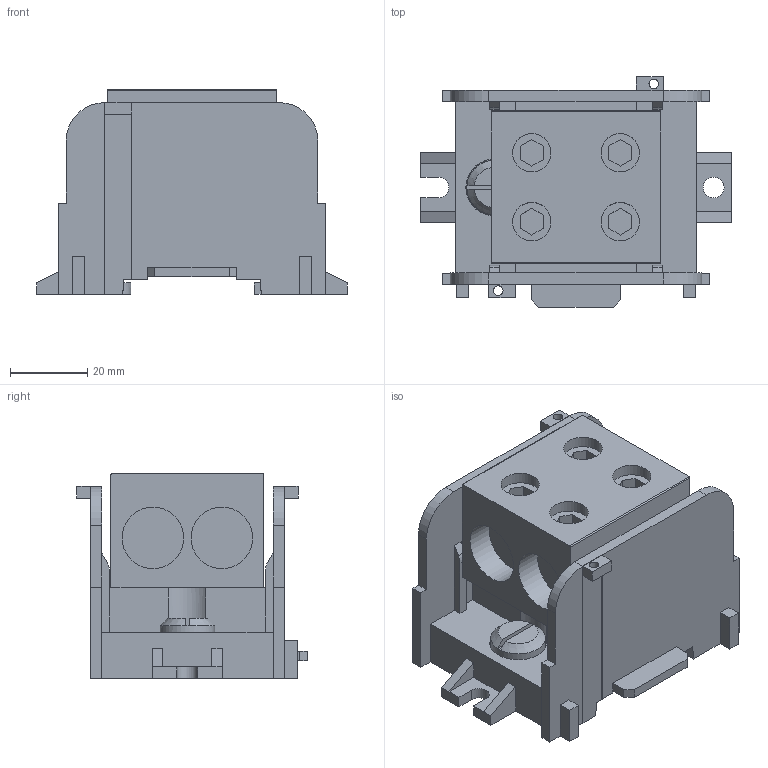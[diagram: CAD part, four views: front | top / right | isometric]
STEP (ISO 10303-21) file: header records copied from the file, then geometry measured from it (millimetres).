
FILE_DESCRIPTION(/* description */ ('Unknown'),/* implementation_level */ '2;1');
FILE_NAME(/* name */ 'UTB-S 2x95',/* time_stamp */ '2021-04-01T13:21:20+02:00',/* author */ ('Unknown'),/* organization */ ('Unknown'),/* preprocessor_version */ 'ST-DEVELOPER v16.7',/* originating_system */ 'Solid Edge',/* authorisation */ 'Unknown');
FILE_SCHEMA (('AUTOMOTIVE_DESIGN {1 0 10303 214 3 1 1}'));
Length unit declared in the file: millimetre
Products named in the file (1): UTB-S 2x95
Bounding box: 80.6 x 59.9 x 53.2 mm (x, y, z)
Volume: 105680.8 mm3; surface area: 30586.6 mm2
Topology: 1 solids, 1 shells, 188 faces, 504 edges, 331 vertices
Faces by surface type: plane 161, cylinder 25, cone 2
Full cylindrical faces by diameter (mm): 2.5 x2, 5.4 x1, 10 x4, 14.2 x1, 14.7 x1, 16 x4
Entity records: 5704 total; most frequent: CARTESIAN_POINT 1009, ORIENTED_EDGE 968, DIRECTION 916, EDGE_CURVE 484, LINE 422, VECTOR 422, VERTEX_POINT 324, AXIS2_PLACEMENT_3D 247
